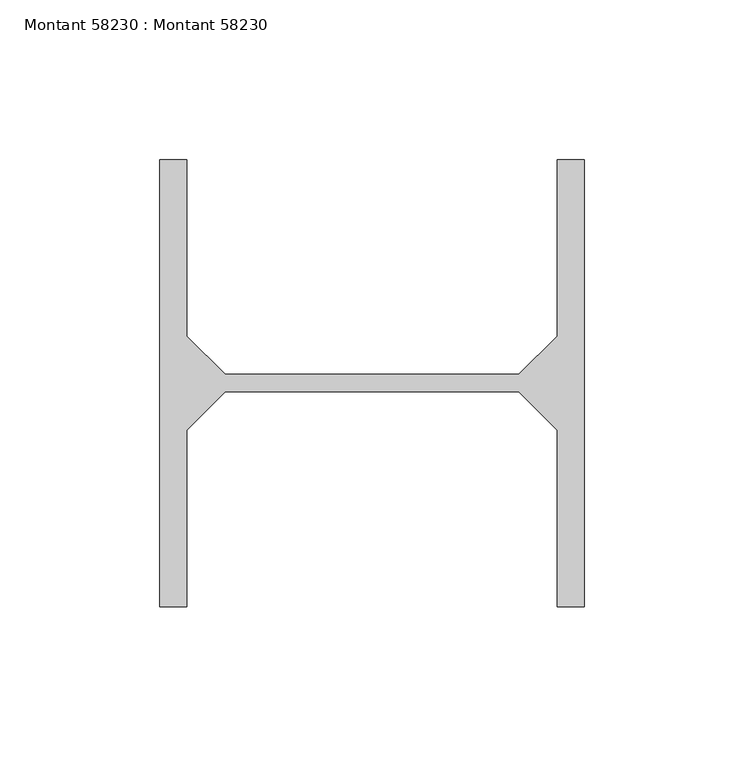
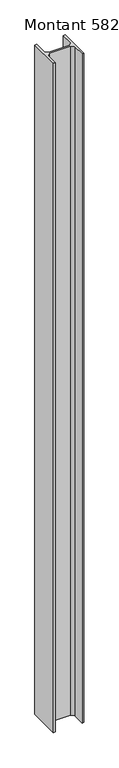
"""IFC4 building model written with IfcOpenShell, lengths in millimetres: beam geometry, Montant 58230 : Montant 58230."""

from ifc_helpers import new_model, si_unit, frame, origin, place, context, project, spatial, polyline, outline, extrude, source, transform, mapped, element, save


def montant_58230_montant_58230_599adf40(model_context):
    return source(origin(), model_context, "Body", "SweptSolid", [
        extrude(outline(polyline([(-52.0000001, -19743.0), (-52.0000001, -19687.75), (-64.0000001, -19675.75), (-156.0000001, -19675.75), (-168.0000001, -19687.75), (-168.0000001, -19743.0), (-176.5000001, -19743.0), (-176.5000001, -19603.0), (-168.0000001, -19603.0), (-168.0000001, -19658.25), (-156.0000001, -19670.25), (-64.0000001, -19670.25), (-52.0000001, -19658.25), (-52.0000001, -19603.0), (-43.5000001, -19603.0), (-43.5000001, -19743.0), (-52.0000001, -19743.0)])), frame((0.0, 0.0, 5333.0), z_axis=(0.0, 0.0, 1.0), x_axis=(1.0, 0.0, 0.0)), (0.0, 0.0, 1.0), 3084.0),
    ])


if __name__ == "__main__":
    model = new_model("IFC4")
    model_context = context("Model", 3, world=origin())
    ifc_project = project(units=[si_unit("LENGTHUNIT", "METRE", prefix="MILLI")], contexts=[model_context])
    site = spatial("IfcSite", under=ifc_project)
    building = spatial("IfcBuilding", under=site)
    placement = place(None, origin())
    montant_58230_montant_58230_shape = montant_58230_montant_58230_599adf40(model_context)
    element("IfcBeam", 1, ObjectType="Montant 58230 : Montant 58230", at=placement, inside=building, context=model_context, shape_type="MappedRepresentation", body=[
        mapped(montant_58230_montant_58230_shape, transform((0.0, 0.0, 0.0), x_axis=(1.0, 0.0, 0.0), y_axis=(0.0, 1.0, 0.0), z_axis=(0.0, 0.0, 1.0))),
    ])
    save(model, "model.ifc")
